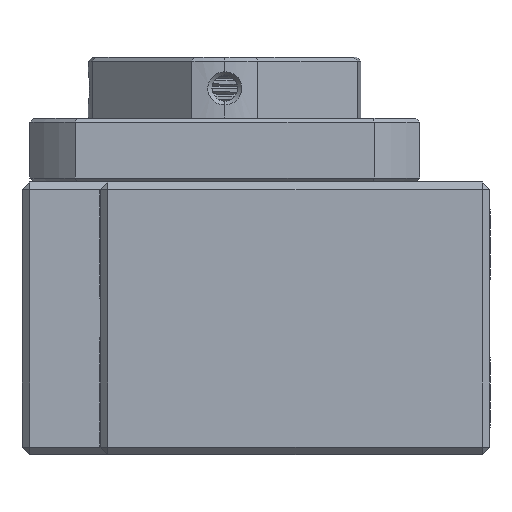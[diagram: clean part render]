
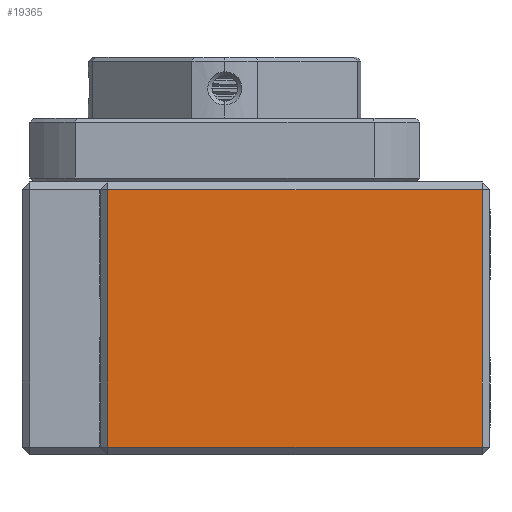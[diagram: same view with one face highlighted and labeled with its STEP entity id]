
A CAD part, left-side view. The second image highlights one B-rep face of the part: STEP entity #19365.
In plain terms, the highlighted planar face has unit normal (-1, 0, 0).
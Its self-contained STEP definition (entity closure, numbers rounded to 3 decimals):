
#1207 = CARTESIAN_POINT ( 'NONE',  ( -44., 49., -16.5 ) ) ;
#2755 = CARTESIAN_POINT ( 'NONE',  ( -44., 49., 16.5 ) ) ;
#3366 = CARTESIAN_POINT ( 'NONE',  ( -44., 1., -16.5 ) ) ;
#4045 = CARTESIAN_POINT ( 'NONE',  ( -44., 1., 16.5 ) ) ;
#5499 = DIRECTION ( 'NONE',  ( 0., -1., 0. ) ) ;
#6115 = PLANE ( 'NONE',  #19552 ) ;
#6500 = CARTESIAN_POINT ( 'NONE',  ( -44., 49., -16.5 ) ) ;
#8943 = EDGE_CURVE ( 'NONE', #16324, #10787, #9737, .T. ) ;
#9340 = EDGE_LOOP ( 'NONE', ( #20987, #16327, #10058, #20606 ) ) ;
#9737 = LINE ( 'NONE', #4045, #22055 ) ;
#10058 = ORIENTED_EDGE ( 'NONE', *, *, #11894, .F. ) ;
#10787 = VERTEX_POINT ( 'NONE', #3366 ) ;
#10810 = EDGE_CURVE ( 'NONE', #19227, #16324, #16899, .T. ) ;
#10994 = DIRECTION ( 'NONE',  ( 0., 1., 0. ) ) ;
#11259 = DIRECTION ( 'NONE',  ( 1., 0., 0. ) ) ;
#11834 = LINE ( 'NONE', #24523, #23289 ) ;
#11894 = EDGE_CURVE ( 'NONE', #21378, #19227, #20021, .T. ) ;
#12578 = VECTOR ( 'NONE', #5499, 1000. ) ;
#13963 = VECTOR ( 'NONE', #16276, 1000. ) ;
#16276 = DIRECTION ( 'NONE',  ( 0., 0., 1. ) ) ;
#16324 = VERTEX_POINT ( 'NONE', #18205 ) ;
#16327 = ORIENTED_EDGE ( 'NONE', *, *, #10810, .F. ) ;
#16638 = EDGE_CURVE ( 'NONE', #10787, #21378, #11834, .T. ) ;
#16899 = LINE ( 'NONE', #20534, #12578 ) ;
#18205 = CARTESIAN_POINT ( 'NONE',  ( -44., 1., 16.5 ) ) ;
#19039 = CARTESIAN_POINT ( 'NONE',  ( -44., 1., -16.5 ) ) ;
#19175 = FACE_OUTER_BOUND ( 'NONE', #9340, .T. ) ;
#19227 = VERTEX_POINT ( 'NONE', #2755 ) ;
#19365 = ADVANCED_FACE ( 'NONE', ( #19175 ), #6115, .F. ) ;
#19552 = AXIS2_PLACEMENT_3D ( 'NONE', #19039, #11259, #23383 ) ;
#20021 = LINE ( 'NONE', #6500, #13963 ) ;
#20534 = CARTESIAN_POINT ( 'NONE',  ( -44., 49., 16.5 ) ) ;
#20606 = ORIENTED_EDGE ( 'NONE', *, *, #16638, .F. ) ;
#20987 = ORIENTED_EDGE ( 'NONE', *, *, #8943, .F. ) ;
#21215 = DIRECTION ( 'NONE',  ( 0., 0., -1. ) ) ;
#21378 = VERTEX_POINT ( 'NONE', #1207 ) ;
#22055 = VECTOR ( 'NONE', #21215, 1000. ) ;
#23289 = VECTOR ( 'NONE', #10994, 1000. ) ;
#23383 = DIRECTION ( 'NONE',  ( 0., 1., 0. ) ) ;
#24523 = CARTESIAN_POINT ( 'NONE',  ( -44., 1., -16.5 ) ) ;
